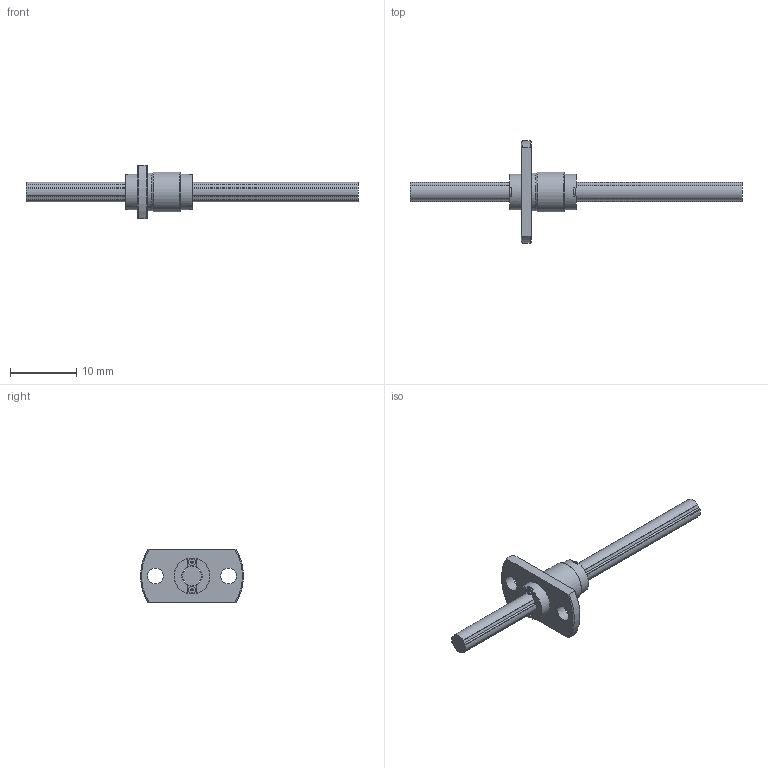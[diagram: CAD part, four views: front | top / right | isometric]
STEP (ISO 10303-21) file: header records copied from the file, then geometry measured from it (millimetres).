
FILE_DESCRIPTION(/* description */ ('STEP AP214'),/* implementation_level */ '2;1');
FILE_NAME(/* name */ 'LF3X+50L(00)',/* time_stamp */ '2024-09-05T14:40:07+02:00',/* author */ ('License CC BY-ND 4.0'),/* organization */ ('CADENAS'),/* preprocessor_version */ 'ST-DEVELOPER v19.3',/* originating_system */ 'PARTsolutions',/* authorisation */ ' ');
FILE_SCHEMA (('FEATURE_BASED_PROCESS_PLANNING','AUTOMOTIVE_DESIGN {1 0 10303 214 3 1 1}'));
Length unit declared in the file: millimetre
Products named in the file (3): LF3X+50L(00); 1LT3X 50Shaft; 1LF3X Cylindar
Assembly tree (2 placements, depth 2):
  LF3X+50L(00)
    1LT3X 50Shaft
    1LF3X Cylindar
Bounding box: 50 x 15.45 x 8 mm (x, y, z)
Volume: 648.5 mm3; surface area: 1039.4 mm2
Topology: 2 solids, 2 shells, 133 faces, 359 edges, 239 vertices
Faces by surface type: plane 87, cylinder 40, cone 6
Full cylindrical faces by diameter (mm): 1.1 x4, 2.4 x2, 5.4 x2, 5.7 x1, 6 x1
Entity records: 4183 total; most frequent: CARTESIAN_POINT 738, DIRECTION 706, ORIENTED_EDGE 686, EDGE_CURVE 343, LINE 236, VECTOR 236, VERTEX_POINT 235, AXIS2_PLACEMENT_3D 235
